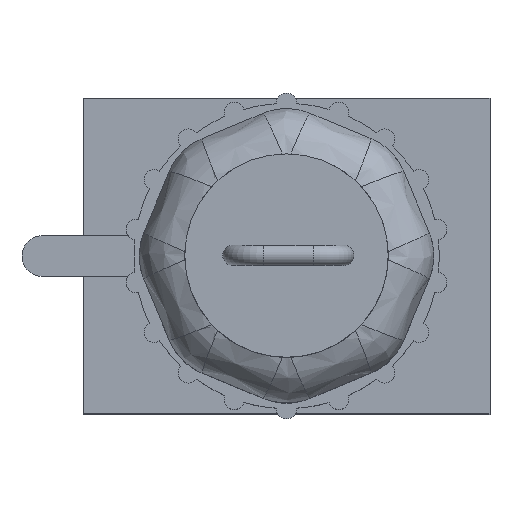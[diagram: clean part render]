
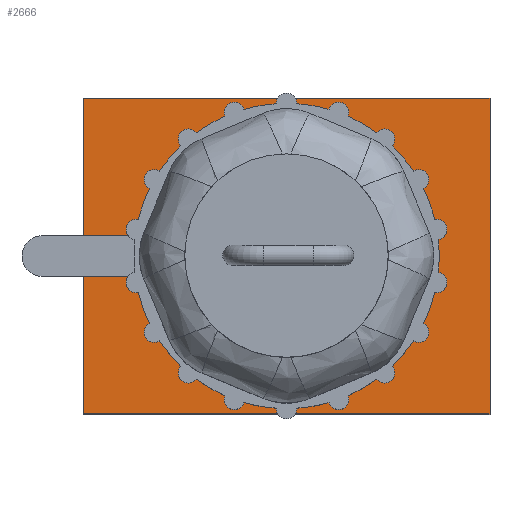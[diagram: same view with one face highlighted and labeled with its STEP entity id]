
A CAD part, top view. The second image highlights one B-rep face of the part: STEP entity #2666.
In plain terms, the highlighted planar face has unit normal (0, 0, 1).
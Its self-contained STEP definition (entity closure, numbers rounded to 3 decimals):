
#296=FACE_OUTER_BOUND('',#457,.T.);
#457=EDGE_LOOP('',(#1827,#1828,#1829,#1830,#1831,#1832,#1833,#1834));
#638=LINE('',#3994,#880);
#640=LINE('',#4000,#882);
#643=LINE('',#4005,#885);
#646=LINE('',#4011,#888);
#647=LINE('',#4013,#889);
#648=LINE('',#4015,#890);
#649=LINE('',#4017,#891);
#650=LINE('',#4018,#892);
#880=VECTOR('',#3166,10.);
#882=VECTOR('',#3170,10.);
#885=VECTOR('',#3175,10.);
#888=VECTOR('',#3182,10.);
#889=VECTOR('',#3183,10.);
#890=VECTOR('',#3184,10.);
#891=VECTOR('',#3185,10.);
#892=VECTOR('',#3186,10.);
#1112=VERTEX_POINT('',#3988);
#1114=VERTEX_POINT('',#3992);
#1115=VERTEX_POINT('',#3996);
#1117=VERTEX_POINT('',#3999);
#1119=VERTEX_POINT('',#4010);
#1120=VERTEX_POINT('',#4012);
#1121=VERTEX_POINT('',#4014);
#1122=VERTEX_POINT('',#4016);
#1388=EDGE_CURVE('',#1112,#1114,#638,.T.);
#1390=EDGE_CURVE('',#1117,#1115,#640,.T.);
#1393=EDGE_CURVE('',#1114,#1117,#643,.T.);
#1396=EDGE_CURVE('',#1115,#1119,#646,.T.);
#1397=EDGE_CURVE('',#1119,#1120,#647,.T.);
#1398=EDGE_CURVE('',#1120,#1121,#648,.T.);
#1399=EDGE_CURVE('',#1121,#1122,#649,.T.);
#1400=EDGE_CURVE('',#1122,#1112,#650,.T.);
#1827=ORIENTED_EDGE('',*,*,#1388,.T.);
#1828=ORIENTED_EDGE('',*,*,#1393,.T.);
#1829=ORIENTED_EDGE('',*,*,#1390,.T.);
#1830=ORIENTED_EDGE('',*,*,#1396,.T.);
#1831=ORIENTED_EDGE('',*,*,#1397,.T.);
#1832=ORIENTED_EDGE('',*,*,#1398,.T.);
#1833=ORIENTED_EDGE('',*,*,#1399,.T.);
#1834=ORIENTED_EDGE('',*,*,#1400,.T.);
#2583=PLANE('',#2838);
#2666=ADVANCED_FACE('',(#296),#2583,.T.);
#2838=AXIS2_PLACEMENT_3D('',#4009,#3180,#3181);
#3166=DIRECTION('',(1.,0.,0.));
#3170=DIRECTION('',(-1.,0.,0.));
#3175=DIRECTION('',(0.,-1.,0.));
#3180=DIRECTION('center_axis',(0.,0.,1.));
#3181=DIRECTION('ref_axis',(1.,0.,0.));
#3182=DIRECTION('',(0.,-1.,0.));
#3183=DIRECTION('',(1.,0.,0.));
#3184=DIRECTION('',(0.,1.,0.));
#3185=DIRECTION('',(-1.,0.,0.));
#3186=DIRECTION('',(0.,-1.,0.));
#3988=CARTESIAN_POINT('',(-20.,2.,39.));
#3992=CARTESIAN_POINT('',(-14.,2.,39.));
#3994=CARTESIAN_POINT('',(-12.,2.,39.));
#3996=CARTESIAN_POINT('',(-20.,-2.,39.));
#3999=CARTESIAN_POINT('',(-14.,-2.,39.));
#4000=CARTESIAN_POINT('',(-7.,-2.,39.));
#4005=CARTESIAN_POINT('',(-14.,1.,39.));
#4009=CARTESIAN_POINT('Origin',(0.,0.,39.));
#4010=CARTESIAN_POINT('',(-20.,-15.5,39.));
#4011=CARTESIAN_POINT('',(-20.,-15.5,39.));
#4012=CARTESIAN_POINT('',(20.,-15.5,39.));
#4013=CARTESIAN_POINT('',(20.,-15.5,39.));
#4014=CARTESIAN_POINT('',(20.,15.5,39.));
#4015=CARTESIAN_POINT('',(20.,15.5,39.));
#4016=CARTESIAN_POINT('',(-20.,15.5,39.));
#4017=CARTESIAN_POINT('',(-20.,15.5,39.));
#4018=CARTESIAN_POINT('',(-20.,-15.5,39.));
